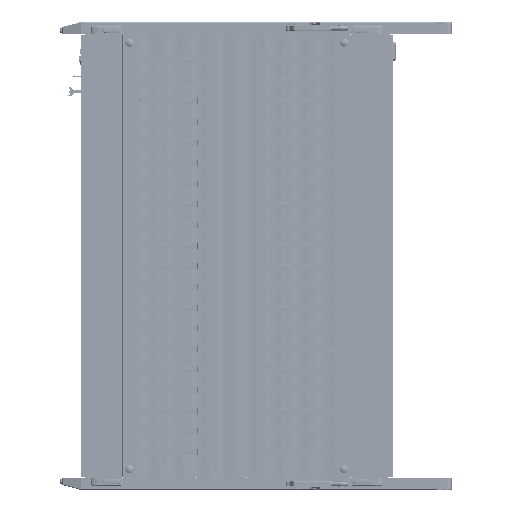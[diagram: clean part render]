
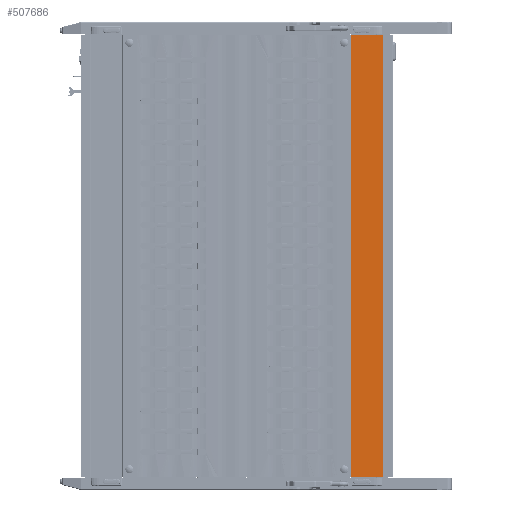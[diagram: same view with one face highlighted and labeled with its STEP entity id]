
A CAD part, front view. The second image highlights one B-rep face of the part: STEP entity #507686.
In plain terms, the highlighted free-form (B-spline) face has degree [1, 1] with [2, 2] control points.
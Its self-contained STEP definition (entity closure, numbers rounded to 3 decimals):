
#131060=DIRECTION('',(1.,0.,0.));
#131061=VECTOR('',#131060,31.);
#131062=CARTESIAN_POINT('',(-34.57,-16.25,-319.8));
#131063=LINE('',#131062,#131061);
#133610=DIRECTION('',(1.,0.,0.));
#133611=VECTOR('',#133610,31.);
#133612=CARTESIAN_POINT('',(-34.57,-16.25,116.2));
#133613=LINE('',#133612,#133611);
#133983=DIRECTION('',(0.,0.,1.));
#133984=VECTOR('',#133983,436.);
#133985=CARTESIAN_POINT('',(-3.57,-16.25,-319.8));
#133986=LINE('',#133985,#133984);
#133987=DIRECTION('',(0.,0.,1.));
#133988=VECTOR('',#133987,436.);
#133989=CARTESIAN_POINT('',(-34.57,-16.25,-319.8));
#133990=LINE('',#133989,#133988);
#184906=CARTESIAN_POINT('',(-34.57,-16.25,-319.8));
#184907=CARTESIAN_POINT('',(-3.57,-16.25,-319.8));
#184908=VERTEX_POINT('',#184906);
#184909=VERTEX_POINT('',#184907);
#184910=CARTESIAN_POINT('',(-34.57,-16.25,116.2));
#184911=CARTESIAN_POINT('',(-3.57,-16.25,116.2));
#184912=VERTEX_POINT('',#184910);
#184913=VERTEX_POINT('',#184911);
#507674=CARTESIAN_POINT('',(-35.19,-16.25,-328.52));
#507675=CARTESIAN_POINT('',(-35.19,-16.25,124.92));
#507676=CARTESIAN_POINT('',(-2.95,-16.25,-328.52));
#507677=CARTESIAN_POINT('',(-2.95,-16.25,124.92));
#507678=B_SPLINE_SURFACE_WITH_KNOTS('',1,1,((#507674,#507675),(#507676,
#507677)),.UNSPECIFIED.,.F.,.F.,.F.,(2,2),(2,2),(-0.62,31.62),(-8.72,
444.72),.UNSPECIFIED.);
#507679=ORIENTED_EDGE('',*,*,#505175,.F.);
#507681=ORIENTED_EDGE('',*,*,#507680,.T.);
#507682=ORIENTED_EDGE('',*,*,#506861,.T.);
#507683=ORIENTED_EDGE('',*,*,#507661,.F.);
#507684=EDGE_LOOP('',(#507679,#507681,#507682,#507683));
#507685=FACE_OUTER_BOUND('',#507684,.F.);
#507686=ADVANCED_FACE('',(#507685),#507678,.T.);
#505175=EDGE_CURVE('',#184908,#184909,#131063,.T.);
#506861=EDGE_CURVE('',#184912,#184913,#133613,.T.);
#507661=EDGE_CURVE('',#184909,#184913,#133986,.T.);
#507680=EDGE_CURVE('',#184908,#184912,#133990,.T.);
